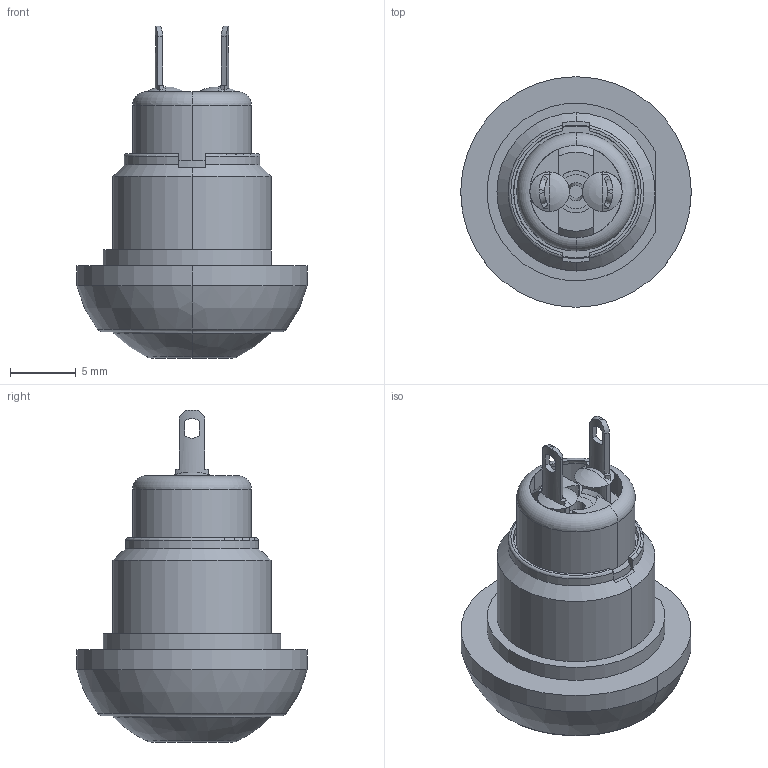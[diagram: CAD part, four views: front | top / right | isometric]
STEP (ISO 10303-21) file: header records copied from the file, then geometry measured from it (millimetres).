
FILE_DESCRIPTION((''),'2;1');
FILE_NAME('IPR3SAD2','2013-12-20T',('jpetit'),(''),'PRO/ENGINEER BY PARAMETRIC TECHNOLOGY CORPORATION, 2012480','PRO/ENGINEER BY PARAMETRIC TECHNOLOGY CORPORATION, 2012480','');
FILE_SCHEMA(('CONFIG_CONTROL_DESIGN'));
Length unit declared in the file: millimetre
Products named in the file (1): IPR3SAD2
Bounding box: 17.5 x 17.5 x 25.2 mm (x, y, z)
Volume: 1500.8 mm3; surface area: 2287.2 mm2
Topology: 2 solids, 2 shells, 208 faces, 518 edges, 328 vertices
Faces by surface type: plane 93, cylinder 70, cone 19, torus 16, sphere 8, bspline 2
Entity records: 6871 total; most frequent: CARTESIAN_POINT 1817, DIRECTION 1082, ORIENTED_EDGE 1024, EDGE_CURVE 512, AXIS2_PLACEMENT_3D 412, VERTEX_POINT 328, VECTOR 258, LINE 258
